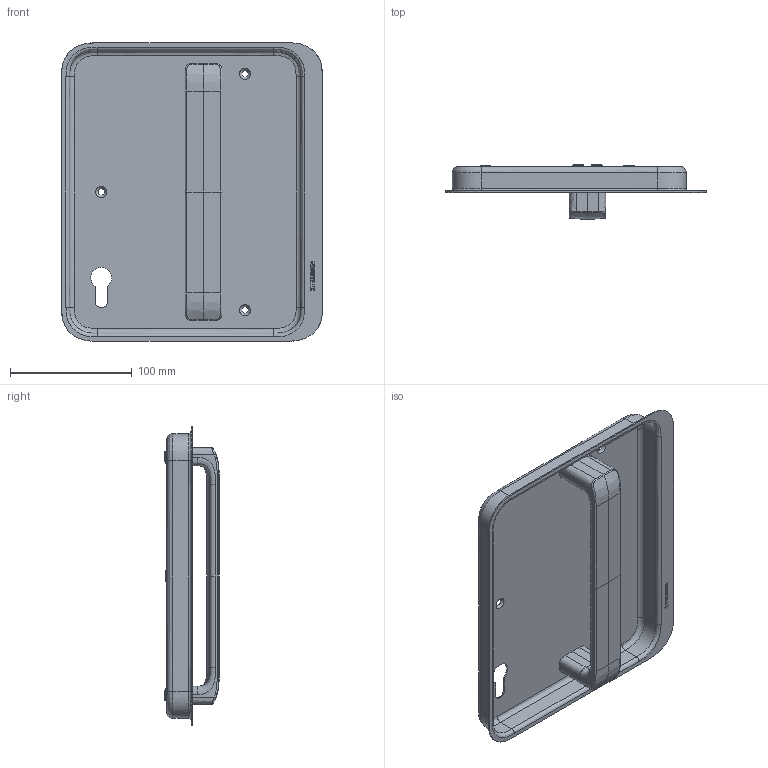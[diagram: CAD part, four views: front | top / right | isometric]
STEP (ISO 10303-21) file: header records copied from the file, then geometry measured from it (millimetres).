
FILE_DESCRIPTION(/* description */ (''),/* implementation_level */ '2;1');
FILE_NAME(/* name */ 'C:\ADSK_DMS_WS\Designs\Vorschläge\Loc Schalen\Heusser Muschel\Heusser-Muschel mit D6\Heusser-Muschel S9.20 mit D6\S9.20.D6.392R..stp',/* time_stamp */ '2025-04-14T14:13:20+02:00',/* author */ ('gm'),/* organization */ (''),/* preprocessor_version */ 'ST-DEVELOPER v17.2',/* originating_system */ 'Autodesk Inventor 2019',/* authorisation */ '');
FILE_SCHEMA (('AUTOMOTIVE_DESIGN { 1 0 10303 214 3 1 1 }'));
Length unit declared in the file: millimetre
Products named in the file (4): S9.20.D6.392R.; Schale S9.20.R.D6; D6; M5x10 zu D6
Assembly tree (6 placements, depth 2):
  S9.20.D6.392R.
    Schale S9.20.R.D6
    D6
    M5x10 zu D6  x4
Bounding box: 214 x 44.5 x 245 mm (x, y, z)
Volume: 147333.8 mm3; surface area: 154143 mm2
Topology: 6 solids, 6 shells, 397 faces, 1025 edges, 659 vertices
Faces by surface type: bspline 148, plane 129, cylinder 66, cone 50, torus 4
Full cylindrical faces by diameter (mm): 4.134 x4, 5 x4, 5.5 x4, 9 x4
Entity records: 20957 total; most frequent: CARTESIAN_POINT 14013, ORIENTED_EDGE 1626, DIRECTION 962, EDGE_CURVE 813, VERTEX_POINT 524, LINE 430, VECTOR 430, EDGE_LOOP 353
